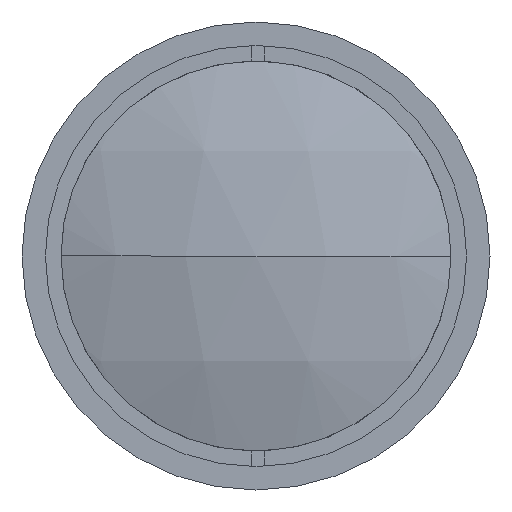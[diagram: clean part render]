
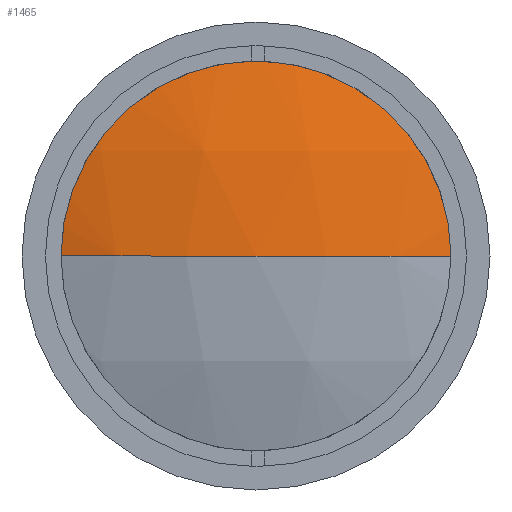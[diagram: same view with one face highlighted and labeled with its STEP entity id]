
A CAD part, left-side view. The second image highlights one B-rep face of the part: STEP entity #1465.
In plain terms, the highlighted spherical face has radius 49.918 mm.
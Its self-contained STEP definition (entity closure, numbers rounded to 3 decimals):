
#41 = DIRECTION ( 'NONE',  ( 0., -1., 0. ) ) ;
#51 = FACE_OUTER_BOUND ( 'NONE', #389, .T. ) ;
#109 = CARTESIAN_POINT ( 'NONE',  ( 5.319, 0., 0. ) ) ;
#184 = ORIENTED_EDGE ( 'NONE', *, *, #1530, .T. ) ;
#191 = CARTESIAN_POINT ( 'NONE',  ( 5.319, -16., 0. ) ) ;
#219 = ORIENTED_EDGE ( 'NONE', *, *, #347, .F. ) ;
#230 = CIRCLE ( 'NONE', #757, 16. ) ;
#238 = AXIS2_PLACEMENT_3D ( 'NONE', #1902, #990, #41 ) ;
#271 = DIRECTION ( 'NONE',  ( 0., 0., 1. ) ) ;
#302 = DIRECTION ( 'NONE',  ( 0., 0., -1. ) ) ;
#341 = VERTEX_POINT ( 'NONE', #742 ) ;
#347 = EDGE_CURVE ( 'NONE', #1473, #341, #1218, .T. ) ;
#389 = EDGE_LOOP ( 'NONE', ( #184, #1144, #219 ) ) ;
#676 = VERTEX_POINT ( 'NONE', #1571 ) ;
#716 = EDGE_CURVE ( 'NONE', #676, #341, #1049, .T. ) ;
#742 = CARTESIAN_POINT ( 'NONE',  ( 2.685, 0., 0. ) ) ;
#757 = AXIS2_PLACEMENT_3D ( 'NONE', #109, #1208, #271 ) ;
#990 = DIRECTION ( 'NONE',  ( 0., 0., 1. ) ) ;
#1049 = CIRCLE ( 'NONE', #238, 49.918 ) ;
#1120 = CARTESIAN_POINT ( 'NONE',  ( 52.603, 0., 0. ) ) ;
#1126 = DIRECTION ( 'NONE',  ( 0., -1., 0. ) ) ;
#1144 = ORIENTED_EDGE ( 'NONE', *, *, #716, .T. ) ;
#1208 = DIRECTION ( 'NONE',  ( -1., 0., 0. ) ) ;
#1218 = CIRCLE ( 'NONE', #1364, 49.918 ) ;
#1240 = CARTESIAN_POINT ( 'NONE',  ( 52.603, 0., 0. ) ) ;
#1364 = AXIS2_PLACEMENT_3D ( 'NONE', #1240, #302, #1388 ) ;
#1388 = DIRECTION ( 'NONE',  ( -1., 0., 0. ) ) ;
#1465 = ADVANCED_FACE ( 'NONE', ( #51 ), #1920, .T. ) ;
#1473 = VERTEX_POINT ( 'NONE', #191 ) ;
#1530 = EDGE_CURVE ( 'NONE', #1473, #676, #230, .T. ) ;
#1571 = CARTESIAN_POINT ( 'NONE',  ( 5.319, 16., 0. ) ) ;
#1731 = DIRECTION ( 'NONE',  ( 0., 0., 1. ) ) ;
#1820 = AXIS2_PLACEMENT_3D ( 'NONE', #1120, #1731, #1126 ) ;
#1902 = CARTESIAN_POINT ( 'NONE',  ( 52.603, 0., 0. ) ) ;
#1920 = SPHERICAL_SURFACE ( 'NONE', #1820, 49.918 ) ;
